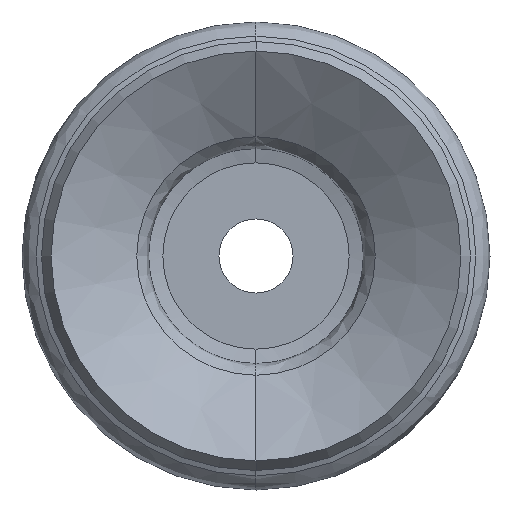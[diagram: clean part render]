
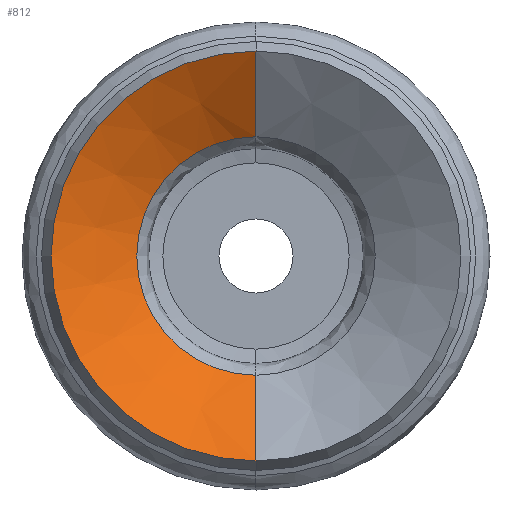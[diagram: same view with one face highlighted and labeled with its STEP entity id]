
A CAD part, front view. The second image highlights one B-rep face of the part: STEP entity #812.
In plain terms, the highlighted conical face has half-angle 56.865 degrees and reference radius 6.112 mm.
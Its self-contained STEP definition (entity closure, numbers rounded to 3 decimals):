
#86 = EDGE_CURVE ( 'NONE', #922, #1132, #124, .T. ) ;
#96 = CARTESIAN_POINT ( 'NONE',  ( 0., -16.13, 0. ) ) ;
#116 = ORIENTED_EDGE ( 'NONE', *, *, #1221, .T. ) ;
#120 = DIRECTION ( 'NONE',  ( 0., -0.547, -0.837 ) ) ;
#124 = CIRCLE ( 'NONE', #719, 10.508 ) ;
#187 = LINE ( 'NONE', #1156, #585 ) ;
#214 = FACE_OUTER_BOUND ( 'NONE', #252, .T. ) ;
#227 = DIRECTION ( 'NONE',  ( 0., 0., -1. ) ) ;
#252 = EDGE_LOOP ( 'NONE', ( #116, #1153, #809, #1081 ) ) ;
#258 = DIRECTION ( 'NONE',  ( 0., -1., 0. ) ) ;
#260 = EDGE_CURVE ( 'NONE', #1042, #922, #1222, .T. ) ;
#275 = CARTESIAN_POINT ( 'NONE',  ( 0., -16.13, 6.112 ) ) ;
#314 = CARTESIAN_POINT ( 'NONE',  ( 0., -16.13, -6.112 ) ) ;
#367 = CARTESIAN_POINT ( 'NONE',  ( 0., -19., 10.508 ) ) ;
#387 = DIRECTION ( 'NONE',  ( 0., -1., 0. ) ) ;
#512 = CARTESIAN_POINT ( 'NONE',  ( 0., -19., -10.508 ) ) ;
#585 = VECTOR ( 'NONE', #120, 1000. ) ;
#587 = CARTESIAN_POINT ( 'NONE',  ( 0., -16.13, 6.112 ) ) ;
#620 = DIRECTION ( 'NONE',  ( 0., -0.547, 0.837 ) ) ;
#650 = DIRECTION ( 'NONE',  ( 0., 0., -1. ) ) ;
#674 = CARTESIAN_POINT ( 'NONE',  ( 0., -19., 0. ) ) ;
#694 = AXIS2_PLACEMENT_3D ( 'NONE', #96, #258, #650 ) ;
#709 = DIRECTION ( 'NONE',  ( 0., 1., 0. ) ) ;
#714 = CIRCLE ( 'NONE', #894, 6.112 ) ;
#719 = AXIS2_PLACEMENT_3D ( 'NONE', #674, #387, #1175 ) ;
#809 = ORIENTED_EDGE ( 'NONE', *, *, #86, .T. ) ;
#812 = ADVANCED_FACE ( 'NONE', ( #214 ), #1057, .F. ) ;
#865 = VECTOR ( 'NONE', #620, 1000. ) ;
#883 = VERTEX_POINT ( 'NONE', #314 ) ;
#888 = CARTESIAN_POINT ( 'NONE',  ( 0., -16.13, 0. ) ) ;
#894 = AXIS2_PLACEMENT_3D ( 'NONE', #888, #709, #227 ) ;
#922 = VERTEX_POINT ( 'NONE', #367 ) ;
#1042 = VERTEX_POINT ( 'NONE', #587 ) ;
#1057 = CONICAL_SURFACE ( 'NONE', #694, 6.112, 0.992 ) ;
#1065 = EDGE_CURVE ( 'NONE', #883, #1132, #187, .T. ) ;
#1081 = ORIENTED_EDGE ( 'NONE', *, *, #1065, .F. ) ;
#1132 = VERTEX_POINT ( 'NONE', #512 ) ;
#1153 = ORIENTED_EDGE ( 'NONE', *, *, #260, .T. ) ;
#1156 = CARTESIAN_POINT ( 'NONE',  ( 0., -16.13, -6.112 ) ) ;
#1175 = DIRECTION ( 'NONE',  ( 0., 0., 1. ) ) ;
#1221 = EDGE_CURVE ( 'NONE', #883, #1042, #714, .T. ) ;
#1222 = LINE ( 'NONE', #275, #865 ) ;
